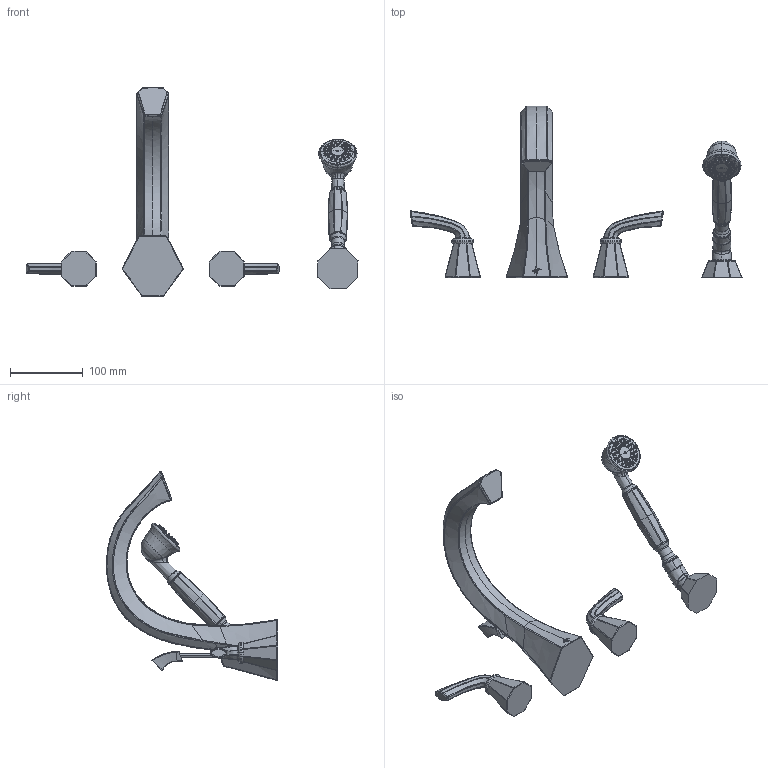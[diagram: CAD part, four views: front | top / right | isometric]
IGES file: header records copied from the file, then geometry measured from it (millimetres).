
Start section:  PTC IGES file: sku_ts244.igs
Global section: file name: sku_ts244.igs; native system: Pro/ENGINEER by Parametric Technology Corporation; preprocessor: 2006460; author: 9dutterb; organization: Unknown; date: 20071105.111929; units: inch
Bounding box: 455.49 x 234.89 x 286.56 mm (x, y, z)
Surface area: 129643 mm2 (no closed solid volume)
Topology: 0 solids, 0 shells, 768 faces, 3362 edges, 3360 vertices
Faces by surface type: bspline 449, revolution 315, extrusion 4
